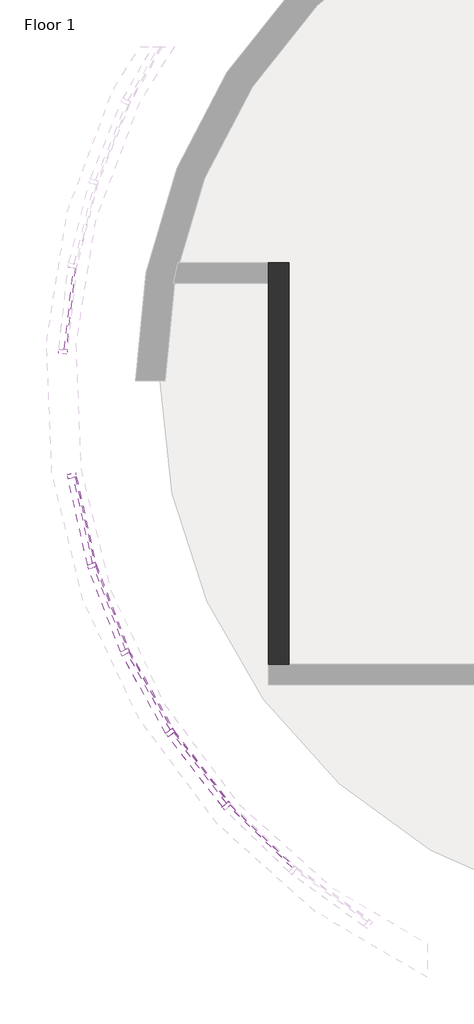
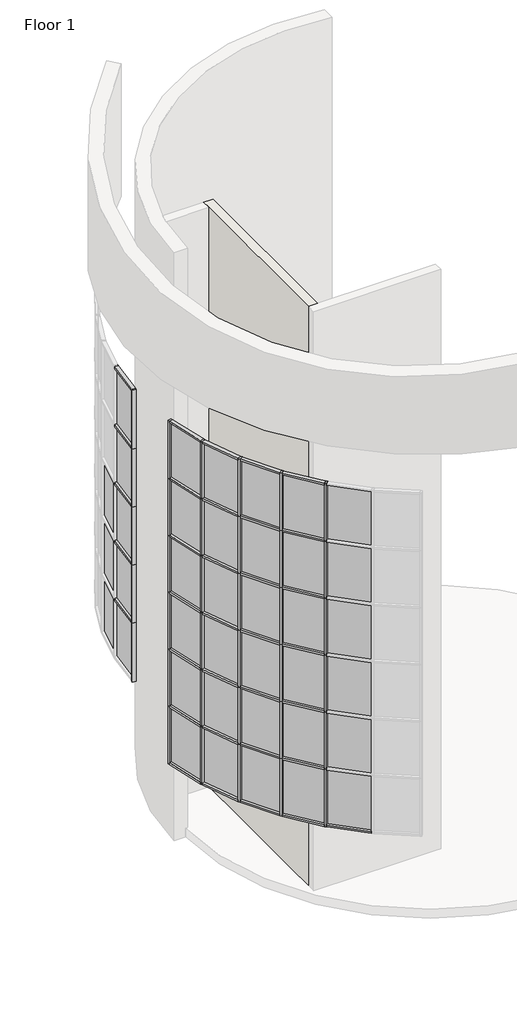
# One storey, part 1 of 11: 69 members, 38 plates, 1 wall.
"""IFC4 building model written with IfcOpenShell, lengths in millimetres."""

from ifc_helpers import new_model, si_unit, origin, place, context, project, spatial, faceted_brep, transform, mapped, element, save
from components import member_2ae322fc, member_21287d99, member_2f5ef470, member_58fb4e6d, member_233ab79f, member_23db0025, member_995572cb, member_0efe1817, member_5e46efc9, member_a397286f, member_60f5540e, member_08becc7e, member_3a2f4316, system_panel_glazed_5cc509e3, system_panel_glazed_c8739ac2, system_panel_glazed_63f175b4, system_panel_glazed_41482947

model = new_model("IFC4")

# Units and contexts
model_context = context("Model", 3, world=origin())
ifc_project = project(units=[si_unit("LENGTHUNIT", "METRE", prefix="MILLI")], contexts=[model_context])

# Site, building, storey
site = spatial("IfcSite", under=ifc_project)
building = spatial("IfcBuilding", under=site)
storey = spatial("IfcBuildingStorey", under=building, Name="Floor 1", Elevation=0.0)

# Members
placement = place(None, origin())
member_shape = member_2ae322fc(model_context)
element("IfcMember", 1, ObjectType="Rectangular Mullion1 : 2.5\" x 5\" rectangular", at=placement, inside=storey, context=model_context, shape_type="MappedRepresentation", body=[
    mapped(member_shape, transform((-3372.5370712, 19812.4001373, 15849.6), x_axis=(0.0, 0.0, 1.0), y_axis=(-0.9938242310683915, 0.11096575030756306, 0.0), z_axis=(-0.11096575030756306, -0.9938242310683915, 0.0))),
])
member_2_shape = member_21287d99(model_context)
element("IfcMember", 2, ObjectType="Rectangular Mullion1 : 2.5\" x 5\" rectangular", at=placement, inside=storey, context=model_context, shape_type="MappedRepresentation", body=[
    mapped(member_2_shape, transform((-3372.5370712, 19812.4001373, 7578.09), x_axis=(0.0, 0.0, 1.0), y_axis=(-0.9938242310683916, 0.11096575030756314, 0.0), z_axis=(-0.11096575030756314, -0.9938242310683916, 0.0))),
])
element("IfcMember", 3, ObjectType="Rectangular Mullion1 : 2.5\" x 5\" rectangular", at=placement, inside=storey, context=model_context, shape_type="MappedRepresentation", body=[
    mapped(member_2_shape, transform((-3372.5370712, 19812.4001373, 9638.03), x_axis=(0.0, 0.0, 1.0), y_axis=(-0.9938242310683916, 0.11096575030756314, 0.0), z_axis=(-0.11096575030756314, -0.9938242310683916, 0.0))),
])
element("IfcMember", 4, ObjectType="Rectangular Mullion1 : 2.5\" x 5\" rectangular", at=placement, inside=storey, context=model_context, shape_type="MappedRepresentation", body=[
    mapped(member_2_shape, transform((-3372.5370712, 19812.4001373, 11697.97), x_axis=(0.0, 0.0, 1.0), y_axis=(-0.9938242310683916, 0.11096575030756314, 0.0), z_axis=(-0.11096575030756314, -0.9938242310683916, 0.0))),
])
element("IfcMember", 5, ObjectType="Rectangular Mullion1 : 2.5\" x 5\" rectangular", at=placement, inside=storey, context=model_context, shape_type="MappedRepresentation", body=[
    mapped(member_2_shape, transform((-3372.5370712, 19812.4001373, 13757.91), x_axis=(0.0, 0.0, 1.0), y_axis=(-0.9938242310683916, 0.11096575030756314, 0.0), z_axis=(-0.11096575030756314, -0.9938242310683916, 0.0))),
])
member_3_shape = member_2f5ef470(model_context)
element("IfcMember", 6, ObjectType="Rectangular Mullion1 : 2.5\" x 5\" rectangular", at=placement, inside=storey, context=model_context, shape_type="MappedRepresentation", body=[
    mapped(member_3_shape, transform((-3234.0499823, 17868.9864839, 3657.6), x_axis=(0.0, 0.0, -1.0), y_axis=(-0.9758306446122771, -0.2185281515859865, 0.0), z_axis=(-0.21852815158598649, 0.975830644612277, 0.0))),
])
member_4_shape = member_58fb4e6d(model_context)
element("IfcMember", 7, ObjectType="Rectangular Mullion1 : 2.5\" x 5\" rectangular", at=placement, inside=storey, context=model_context, shape_type="MappedRepresentation", body=[
    mapped(member_4_shape, transform((-2941.3488489, 16561.9387028, 15849.6), x_axis=(0.0, 0.0, 1.0), y_axis=(-0.9758306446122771, -0.2185281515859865, 0.0), z_axis=(0.21852815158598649, -0.975830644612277, 0.0))),
])
member_5_shape = member_233ab79f(model_context)
element("IfcMember", 8, ObjectType="Rectangular Mullion1 : 2.5\" x 5\" rectangular", at=placement, inside=storey, context=model_context, shape_type="MappedRepresentation", body=[
    mapped(member_5_shape, transform((-2442.4749788, 15251.0699632, 15849.6), x_axis=(0.0, 0.0, 1.0), y_axis=(-0.9334258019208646, -0.3587705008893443, 0.0), z_axis=(0.35877050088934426, -0.9334258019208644, 0.0))),
])
element("IfcMember", 9, ObjectType="Rectangular Mullion1 : 2.5\" x 5\" rectangular", at=placement, inside=storey, context=model_context, shape_type="MappedRepresentation", body=[
    mapped(member_5_shape, transform((-1759.3761459, 14026.0602606, 15849.6), x_axis=(0.0, 0.0, 1.0), y_axis=(-0.8717903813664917, -0.4898790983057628, 0.0), z_axis=(0.48987909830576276, -0.8717903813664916, 0.0))),
])
element("IfcMember", 10, ObjectType="Rectangular Mullion1 : 2.5\" x 5\" rectangular", at=placement, inside=storey, context=model_context, shape_type="MappedRepresentation", body=[
    mapped(member_5_shape, transform((-906.4404132, 12912.6091289, 15849.6), x_axis=(0.0, 0.0, 1.0), y_axis=(-0.7918574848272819, -0.6107059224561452, 0.0), z_axis=(0.6107059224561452, -0.7918574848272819, 0.0))),
])
element("IfcMember", 11, ObjectType="Rectangular Mullion1 : 2.5\" x 5\" rectangular", at=placement, inside=storey, context=model_context, shape_type="MappedRepresentation", body=[
    mapped(member_5_shape, transform((-2923.0196167, 16501.3198106, 3657.6), x_axis=(0.0, 0.0, -1.0), y_axis=(-0.9334258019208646, -0.3587705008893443, 0.0), z_axis=(-0.3587705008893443, 0.9334258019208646, 0.0))),
])
element("IfcMember", 12, ObjectType="Rectangular Mullion1 : 2.5\" x 5\" rectangular", at=placement, inside=storey, context=model_context, shape_type="MappedRepresentation", body=[
    mapped(member_5_shape, transform((-2415.530354, 15193.7543494, 3657.6), x_axis=(0.0, 0.0, -1.0), y_axis=(-0.8717903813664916, -0.4898790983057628, 0.0), z_axis=(-0.4898790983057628, 0.8717903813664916, 0.0))),
])
element("IfcMember", 13, ObjectType="Rectangular Mullion1 : 2.5\" x 5\" rectangular", at=placement, inside=storey, context=model_context, shape_type="MappedRepresentation", body=[
    mapped(member_5_shape, transform((-1724.4325715, 13973.2394409, 3657.6), x_axis=(0.0, 0.0, -1.0), y_axis=(-0.7918574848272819, -0.6107059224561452, 0.0), z_axis=(-0.6107059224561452, 0.7918574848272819, 0.0))),
])
element("IfcMember", 14, ObjectType="Rectangular Mullion1 : 2.5\" x 5\" rectangular", at=placement, inside=storey, context=model_context, shape_type="MappedRepresentation", body=[
    mapped(member_5_shape, transform((-864.2312985, 12865.3917271, 3657.6), x_axis=(0.0, 0.0, -1.0), y_axis=(-0.6953047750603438, -0.7187150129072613, 0.0), z_axis=(-0.7187150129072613, 0.6953047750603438, 0.0))),
])
member_6_shape = member_23db0025(model_context)
element("IfcMember", 15, ObjectType="Rectangular Mullion1 : 2.5\" x 5\" rectangular", at=placement, inside=storey, context=model_context, shape_type="MappedRepresentation", body=[
    mapped(member_6_shape, transform((-2941.3488489, 16561.9387028, 5710.7666667), x_axis=(0.0, 0.0, 1.0), y_axis=(-0.9758306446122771, -0.2185281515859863, 0.0), z_axis=(0.2185281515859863, -0.9758306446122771, 0.0))),
])
member_7_shape = member_995572cb(model_context)
element("IfcMember", 16, ObjectType="Rectangular Mullion1 : 2.5\" x 5\" rectangular", at=placement, inside=storey, context=model_context, shape_type="MappedRepresentation", body=[
    mapped(member_7_shape, transform((-2442.4749788, 15251.0699632, 5710.7666667), x_axis=(0.0, 0.0, 1.0), y_axis=(-0.9334258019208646, -0.3587705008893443, 0.0), z_axis=(0.35877050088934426, -0.9334258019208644, 0.0))),
])
element("IfcMember", 17, ObjectType="Rectangular Mullion1 : 2.5\" x 5\" rectangular", at=placement, inside=storey, context=model_context, shape_type="MappedRepresentation", body=[
    mapped(member_7_shape, transform((-1759.3761459, 14026.0602606, 5710.7666667), x_axis=(0.0, 0.0, 1.0), y_axis=(-0.8717903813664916, -0.4898790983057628, 0.0), z_axis=(0.4898790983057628, -0.8717903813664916, 0.0))),
])
element("IfcMember", 18, ObjectType="Rectangular Mullion1 : 2.5\" x 5\" rectangular", at=placement, inside=storey, context=model_context, shape_type="MappedRepresentation", body=[
    mapped(member_7_shape, transform((-906.4404132, 12912.6091289, 5710.7666667), x_axis=(0.0, 0.0, 1.0), y_axis=(-0.7918574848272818, -0.6107059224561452, 0.0), z_axis=(0.6107059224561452, -0.7918574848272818, 0.0))),
])
element("IfcMember", 19, ObjectType="Rectangular Mullion1 : 2.5\" x 5\" rectangular", at=placement, inside=storey, context=model_context, shape_type="MappedRepresentation", body=[
    mapped(member_6_shape, transform((-2941.3488489, 16561.9387028, 7732.1833333), x_axis=(0.0, 0.0, 1.0), y_axis=(-0.9758306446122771, -0.2185281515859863, 0.0), z_axis=(0.2185281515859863, -0.9758306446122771, 0.0))),
])
element("IfcMember", 20, ObjectType="Rectangular Mullion1 : 2.5\" x 5\" rectangular", at=placement, inside=storey, context=model_context, shape_type="MappedRepresentation", body=[
    mapped(member_6_shape, transform((-2941.3488489, 16561.9387028, 9753.6), x_axis=(0.0, 0.0, 1.0), y_axis=(-0.9758306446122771, -0.2185281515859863, 0.0), z_axis=(0.2185281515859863, -0.9758306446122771, 0.0))),
])
element("IfcMember", 21, ObjectType="Rectangular Mullion1 : 2.5\" x 5\" rectangular", at=placement, inside=storey, context=model_context, shape_type="MappedRepresentation", body=[
    mapped(member_6_shape, transform((-2941.3488489, 16561.9387028, 11775.0166667), x_axis=(0.0, 0.0, 1.0), y_axis=(-0.9758306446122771, -0.2185281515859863, 0.0), z_axis=(0.2185281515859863, -0.9758306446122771, 0.0))),
])
element("IfcMember", 22, ObjectType="Rectangular Mullion1 : 2.5\" x 5\" rectangular", at=placement, inside=storey, context=model_context, shape_type="MappedRepresentation", body=[
    mapped(member_7_shape, transform((-2442.4749788, 15251.0699632, 7732.1833333), x_axis=(0.0, 0.0, 1.0), y_axis=(-0.9334258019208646, -0.3587705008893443, 0.0), z_axis=(0.35877050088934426, -0.9334258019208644, 0.0))),
])
element("IfcMember", 23, ObjectType="Rectangular Mullion1 : 2.5\" x 5\" rectangular", at=placement, inside=storey, context=model_context, shape_type="MappedRepresentation", body=[
    mapped(member_7_shape, transform((-1759.3761459, 14026.0602606, 7732.1833333), x_axis=(0.0, 0.0, 1.0), y_axis=(-0.8717903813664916, -0.489879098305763, 0.0), z_axis=(0.489879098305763, -0.8717903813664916, 0.0))),
])
element("IfcMember", 24, ObjectType="Rectangular Mullion1 : 2.5\" x 5\" rectangular", at=placement, inside=storey, context=model_context, shape_type="MappedRepresentation", body=[
    mapped(member_7_shape, transform((-906.4404132, 12912.6091289, 7732.1833333), x_axis=(0.0, 0.0, 1.0), y_axis=(-0.7918574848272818, -0.6107059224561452, 0.0), z_axis=(0.6107059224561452, -0.7918574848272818, 0.0))),
])
element("IfcMember", 25, ObjectType="Rectangular Mullion1 : 2.5\" x 5\" rectangular", at=placement, inside=storey, context=model_context, shape_type="MappedRepresentation", body=[
    mapped(member_7_shape, transform((-2442.4749788, 15251.0699632, 9753.6), x_axis=(0.0, 0.0, 1.0), y_axis=(-0.9334258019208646, -0.3587705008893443, 0.0), z_axis=(0.35877050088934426, -0.9334258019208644, 0.0))),
])
element("IfcMember", 26, ObjectType="Rectangular Mullion1 : 2.5\" x 5\" rectangular", at=placement, inside=storey, context=model_context, shape_type="MappedRepresentation", body=[
    mapped(member_7_shape, transform((-1759.3761459, 14026.0602606, 9753.6), x_axis=(0.0, 0.0, 1.0), y_axis=(-0.8717903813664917, -0.4898790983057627, 0.0), z_axis=(0.48987909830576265, -0.8717903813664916, 0.0))),
])
element("IfcMember", 27, ObjectType="Rectangular Mullion1 : 2.5\" x 5\" rectangular", at=placement, inside=storey, context=model_context, shape_type="MappedRepresentation", body=[
    mapped(member_7_shape, transform((-906.4404132, 12912.6091289, 9753.6), x_axis=(0.0, 0.0, 1.0), y_axis=(-0.7918574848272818, -0.6107059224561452, 0.0), z_axis=(0.6107059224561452, -0.7918574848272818, 0.0))),
])
element("IfcMember", 28, ObjectType="Rectangular Mullion1 : 2.5\" x 5\" rectangular", at=placement, inside=storey, context=model_context, shape_type="MappedRepresentation", body=[
    mapped(member_7_shape, transform((-2442.4749788, 15251.0699632, 11775.0166667), x_axis=(0.0, 0.0, 1.0), y_axis=(-0.9334258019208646, -0.3587705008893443, 0.0), z_axis=(0.35877050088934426, -0.9334258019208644, 0.0))),
])
element("IfcMember", 29, ObjectType="Rectangular Mullion1 : 2.5\" x 5\" rectangular", at=placement, inside=storey, context=model_context, shape_type="MappedRepresentation", body=[
    mapped(member_7_shape, transform((-1759.3761459, 14026.0602606, 11775.0166667), x_axis=(0.0, 0.0, 1.0), y_axis=(-0.8717903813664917, -0.4898790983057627, 0.0), z_axis=(0.48987909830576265, -0.8717903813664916, 0.0))),
])
element("IfcMember", 30, ObjectType="Rectangular Mullion1 : 2.5\" x 5\" rectangular", at=placement, inside=storey, context=model_context, shape_type="MappedRepresentation", body=[
    mapped(member_7_shape, transform((-906.4404132, 12912.6091289, 11775.0166667), x_axis=(0.0, 0.0, 1.0), y_axis=(-0.7918574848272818, -0.6107059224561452, 0.0), z_axis=(0.6107059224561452, -0.7918574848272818, 0.0))),
])
element("IfcMember", 31, ObjectType="Rectangular Mullion1 : 2.5\" x 5\" rectangular", at=placement, inside=storey, context=model_context, shape_type="MappedRepresentation", body=[
    mapped(member_6_shape, transform((-2941.3488489, 16561.9387028, 13796.4333333), x_axis=(0.0, 0.0, 1.0), y_axis=(-0.9758306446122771, -0.2185281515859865, 0.0), z_axis=(0.21852815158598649, -0.975830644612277, 0.0))),
])
element("IfcMember", 32, ObjectType="Rectangular Mullion1 : 2.5\" x 5\" rectangular", at=placement, inside=storey, context=model_context, shape_type="MappedRepresentation", body=[
    mapped(member_7_shape, transform((-2442.4749788, 15251.0699632, 13796.4333333), x_axis=(0.0, 0.0, 1.0), y_axis=(-0.9334258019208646, -0.3587705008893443, 0.0), z_axis=(0.35877050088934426, -0.9334258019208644, 0.0))),
])
element("IfcMember", 33, ObjectType="Rectangular Mullion1 : 2.5\" x 5\" rectangular", at=placement, inside=storey, context=model_context, shape_type="MappedRepresentation", body=[
    mapped(member_7_shape, transform((-1759.3761459, 14026.0602606, 13796.4333333), x_axis=(0.0, 0.0, 1.0), y_axis=(-0.8717903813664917, -0.4898790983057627, 0.0), z_axis=(0.48987909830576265, -0.8717903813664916, 0.0))),
])
element("IfcMember", 34, ObjectType="Rectangular Mullion1 : 2.5\" x 5\" rectangular", at=placement, inside=storey, context=model_context, shape_type="MappedRepresentation", body=[
    mapped(member_7_shape, transform((-906.4404132, 12912.6091289, 13796.4333333), x_axis=(0.0, 0.0, 1.0), y_axis=(-0.7918574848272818, -0.6107059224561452, 0.0), z_axis=(0.6107059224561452, -0.7918574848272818, 0.0))),
])
member_8_shape = member_0efe1817(model_context)
element("IfcMember", 35, ObjectType="Rectangular Mullion1 : 2.5\" x 5\" rectangular", at=placement, inside=storey, context=model_context, shape_type="MappedRepresentation", body=[
    mapped(member_8_shape, transform((-2934.4105801, 16530.9560798, 3657.6), x_axis=(0.2902135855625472, -0.9569618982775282, 0.0), y_axis=(-0.9569618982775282, -0.2902135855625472, 0.0), z_axis=(0.0, 0.0, -1.0))),
])
element("IfcMember", 36, ObjectType="Rectangular Mullion1 : 2.5\" x 5\" rectangular", at=placement, inside=storey, context=model_context, shape_type="MappedRepresentation", body=[
    mapped(member_8_shape, transform((-2431.0840154, 15221.433694, 3657.6), x_axis=(0.42544243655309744, -0.9049854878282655, 0.0), y_axis=(-0.9049854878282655, -0.42544243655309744, 0.0), z_axis=(0.0, 0.0, -1.0))),
])
element("IfcMember", 37, ObjectType="Rectangular Mullion1 : 2.5\" x 5\" rectangular", at=placement, inside=storey, context=model_context, shape_type="MappedRepresentation", body=[
    mapped(member_8_shape, transform((-1743.8224845, 13998.380916, 3657.6), x_axis=(0.5517419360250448, -0.8340148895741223, 0.0), y_axis=(-0.8340148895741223, -0.5517419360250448, 0.0), z_axis=(0.0, 0.0, -1.0))),
])
element("IfcMember", 38, ObjectType="Rectangular Mullion1 : 2.5\" x 5\" rectangular", at=placement, inside=storey, context=model_context, shape_type="MappedRepresentation", body=[
    mapped(member_8_shape, transform((-887.0505002, 12887.4676537, 3657.6), x_axis=(0.6664612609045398, -0.7455396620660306, 0.0), y_axis=(-0.7455396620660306, -0.6664612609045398, 0.0), z_axis=(0.0, 0.0, -1.0))),
])
member_9_shape = member_5e46efc9(model_context)
element("IfcMember", 39, ObjectType="Rectangular Mullion1 : 2.5\" x 5\" rectangular", at=placement, inside=storey, context=model_context, shape_type="MappedRepresentation", body=[
    mapped(member_9_shape, transform((-2934.4105801, 16530.9560798, 5710.7666667), x_axis=(0.2902135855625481, -0.9569618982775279, 0.0), y_axis=(-0.9569618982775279, -0.2902135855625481, 0.0), z_axis=(0.0, 0.0, -1.0))),
])
element("IfcMember", 40, ObjectType="Rectangular Mullion1 : 2.5\" x 5\" rectangular", at=placement, inside=storey, context=model_context, shape_type="MappedRepresentation", body=[
    mapped(member_9_shape, transform((-2431.0840154, 15221.433694, 5710.7666667), x_axis=(0.4254424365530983, -0.9049854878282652, 0.0), y_axis=(-0.9049854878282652, -0.4254424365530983, 0.0), z_axis=(0.0, 0.0, -1.0))),
])
element("IfcMember", 41, ObjectType="Rectangular Mullion1 : 2.5\" x 5\" rectangular", at=placement, inside=storey, context=model_context, shape_type="MappedRepresentation", body=[
    mapped(member_9_shape, transform((-1743.8224845, 13998.380916, 5710.7666667), x_axis=(0.5517419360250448, -0.8340148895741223, 0.0), y_axis=(-0.8340148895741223, -0.5517419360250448, 0.0), z_axis=(0.0, 0.0, -1.0))),
])
element("IfcMember", 42, ObjectType="Rectangular Mullion1 : 2.5\" x 5\" rectangular", at=placement, inside=storey, context=model_context, shape_type="MappedRepresentation", body=[
    mapped(member_9_shape, transform((-887.0505002, 12887.4676537, 5710.7666667), x_axis=(0.6664612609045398, -0.7455396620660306, 0.0), y_axis=(-0.7455396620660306, -0.6664612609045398, 0.0), z_axis=(0.0, 0.0, -1.0))),
])
element("IfcMember", 43, ObjectType="Rectangular Mullion1 : 2.5\" x 5\" rectangular", at=placement, inside=storey, context=model_context, shape_type="MappedRepresentation", body=[
    mapped(member_9_shape, transform((-2934.4105801, 16530.9560798, 7732.1833333), x_axis=(0.2902135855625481, -0.9569618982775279, 0.0), y_axis=(-0.9569618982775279, -0.2902135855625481, 0.0), z_axis=(0.0, 0.0, -1.0))),
])
element("IfcMember", 44, ObjectType="Rectangular Mullion1 : 2.5\" x 5\" rectangular", at=placement, inside=storey, context=model_context, shape_type="MappedRepresentation", body=[
    mapped(member_9_shape, transform((-2431.0840154, 15221.433694, 7732.1833333), x_axis=(0.4254424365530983, -0.9049854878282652, 0.0), y_axis=(-0.9049854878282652, -0.4254424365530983, 0.0), z_axis=(0.0, 0.0, -1.0))),
])
element("IfcMember", 45, ObjectType="Rectangular Mullion1 : 2.5\" x 5\" rectangular", at=placement, inside=storey, context=model_context, shape_type="MappedRepresentation", body=[
    mapped(member_9_shape, transform((-1743.8224845, 13998.380916, 7732.1833333), x_axis=(0.5517419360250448, -0.8340148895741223, 0.0), y_axis=(-0.8340148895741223, -0.5517419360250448, 0.0), z_axis=(0.0, 0.0, -1.0))),
])
element("IfcMember", 46, ObjectType="Rectangular Mullion1 : 2.5\" x 5\" rectangular", at=placement, inside=storey, context=model_context, shape_type="MappedRepresentation", body=[
    mapped(member_9_shape, transform((-887.0505002, 12887.4676537, 7732.1833333), x_axis=(0.6664612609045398, -0.7455396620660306, 0.0), y_axis=(-0.7455396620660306, -0.6664612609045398, 0.0), z_axis=(0.0, 0.0, -1.0))),
])
element("IfcMember", 47, ObjectType="Rectangular Mullion1 : 2.5\" x 5\" rectangular", at=placement, inside=storey, context=model_context, shape_type="MappedRepresentation", body=[
    mapped(member_9_shape, transform((-2934.4105801, 16530.9560798, 9753.6), x_axis=(0.2902135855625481, -0.9569618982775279, 0.0), y_axis=(-0.9569618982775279, -0.2902135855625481, 0.0), z_axis=(0.0, 0.0, -1.0))),
])
element("IfcMember", 48, ObjectType="Rectangular Mullion1 : 2.5\" x 5\" rectangular", at=placement, inside=storey, context=model_context, shape_type="MappedRepresentation", body=[
    mapped(member_9_shape, transform((-2431.0840154, 15221.433694, 9753.6), x_axis=(0.4254424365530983, -0.9049854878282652, 0.0), y_axis=(-0.9049854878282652, -0.4254424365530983, 0.0), z_axis=(0.0, 0.0, -1.0))),
])
element("IfcMember", 49, ObjectType="Rectangular Mullion1 : 2.5\" x 5\" rectangular", at=placement, inside=storey, context=model_context, shape_type="MappedRepresentation", body=[
    mapped(member_9_shape, transform((-1743.8224845, 13998.380916, 9753.6), x_axis=(0.5517419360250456, -0.8340148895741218, 0.0), y_axis=(-0.8340148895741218, -0.5517419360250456, 0.0), z_axis=(0.0, 0.0, -1.0))),
])
element("IfcMember", 50, ObjectType="Rectangular Mullion1 : 2.5\" x 5\" rectangular", at=placement, inside=storey, context=model_context, shape_type="MappedRepresentation", body=[
    mapped(member_9_shape, transform((-887.0505002, 12887.4676537, 9753.6), x_axis=(0.6664612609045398, -0.7455396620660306, 0.0), y_axis=(-0.7455396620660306, -0.6664612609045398, 0.0), z_axis=(0.0, 0.0, -1.0))),
])
element("IfcMember", 51, ObjectType="Rectangular Mullion1 : 2.5\" x 5\" rectangular", at=placement, inside=storey, context=model_context, shape_type="MappedRepresentation", body=[
    mapped(member_9_shape, transform((-2934.4105801, 16530.9560798, 11775.0166667), x_axis=(0.2902135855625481, -0.9569618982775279, 0.0), y_axis=(-0.9569618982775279, -0.2902135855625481, 0.0), z_axis=(0.0, 0.0, -1.0))),
])
element("IfcMember", 52, ObjectType="Rectangular Mullion1 : 2.5\" x 5\" rectangular", at=placement, inside=storey, context=model_context, shape_type="MappedRepresentation", body=[
    mapped(member_9_shape, transform((-2431.0840154, 15221.433694, 11775.0166667), x_axis=(0.4254424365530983, -0.9049854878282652, 0.0), y_axis=(-0.9049854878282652, -0.4254424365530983, 0.0), z_axis=(0.0, 0.0, -1.0))),
])
element("IfcMember", 53, ObjectType="Rectangular Mullion1 : 2.5\" x 5\" rectangular", at=placement, inside=storey, context=model_context, shape_type="MappedRepresentation", body=[
    mapped(member_9_shape, transform((-1743.8224845, 13998.380916, 11775.0166667), x_axis=(0.5517419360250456, -0.8340148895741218, 0.0), y_axis=(-0.8340148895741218, -0.5517419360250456, 0.0), z_axis=(0.0, 0.0, -1.0))),
])
element("IfcMember", 54, ObjectType="Rectangular Mullion1 : 2.5\" x 5\" rectangular", at=placement, inside=storey, context=model_context, shape_type="MappedRepresentation", body=[
    mapped(member_9_shape, transform((-887.0505002, 12887.4676537, 11775.0166667), x_axis=(0.6664612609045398, -0.7455396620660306, 0.0), y_axis=(-0.7455396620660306, -0.6664612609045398, 0.0), z_axis=(0.0, 0.0, -1.0))),
])
element("IfcMember", 55, ObjectType="Rectangular Mullion1 : 2.5\" x 5\" rectangular", at=placement, inside=storey, context=model_context, shape_type="MappedRepresentation", body=[
    mapped(member_8_shape, transform((-2934.4105801, 16530.9560798, 13796.4333333), x_axis=(0.2902135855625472, -0.9569618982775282, 0.0), y_axis=(-0.9569618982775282, -0.2902135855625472, 0.0), z_axis=(0.0, 0.0, -1.0))),
])
element("IfcMember", 56, ObjectType="Rectangular Mullion1 : 2.5\" x 5\" rectangular", at=placement, inside=storey, context=model_context, shape_type="MappedRepresentation", body=[
    mapped(member_8_shape, transform((-2431.0840154, 15221.433694, 13796.4333333), x_axis=(0.4254424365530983, -0.9049854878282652, 0.0), y_axis=(-0.9049854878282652, -0.4254424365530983, 0.0), z_axis=(0.0, 0.0, -1.0))),
])
element("IfcMember", 57, ObjectType="Rectangular Mullion1 : 2.5\" x 5\" rectangular", at=placement, inside=storey, context=model_context, shape_type="MappedRepresentation", body=[
    mapped(member_8_shape, transform((-1743.8224845, 13998.380916, 13796.4333333), x_axis=(0.5517419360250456, -0.8340148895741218, 0.0), y_axis=(-0.8340148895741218, -0.5517419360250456, 0.0), z_axis=(0.0, 0.0, -1.0))),
])
element("IfcMember", 58, ObjectType="Rectangular Mullion1 : 2.5\" x 5\" rectangular", at=placement, inside=storey, context=model_context, shape_type="MappedRepresentation", body=[
    mapped(member_8_shape, transform((-887.0505002, 12887.4676537, 13796.4333333), x_axis=(0.6664612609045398, -0.7455396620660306, 0.0), y_axis=(-0.7455396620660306, -0.6664612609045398, 0.0), z_axis=(0.0, 0.0, -1.0))),
])
member_10_shape = member_a397286f(model_context)
element("IfcMember", 59, ObjectType="Rectangular Mullion1 : 2.5\" x 5\" rectangular", at=placement, inside=storey, context=model_context, shape_type="MappedRepresentation", body=[
    mapped(member_10_shape, transform((-3379.5833964, 19749.2922986, 5486.4), x_axis=(-0.11096575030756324, -0.9938242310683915, 0.0), y_axis=(-0.9938242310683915, 0.11096575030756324, 0.0), z_axis=(0.0, 0.0, -1.0))),
])
member_11_shape = member_60f5540e(model_context)
element("IfcMember", 60, ObjectType="Rectangular Mullion1 : 2.5\" x 5\" rectangular", at=placement, inside=storey, context=model_context, shape_type="MappedRepresentation", body=[
    mapped(member_11_shape, transform((-3247.9265199, 17930.9517299, 15849.6), x_axis=(-0.21852815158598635, 0.9758306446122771, 0.0), y_axis=(-0.9758306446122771, -0.21852815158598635, 0.0), z_axis=(0.0, 0.0, 1.0))),
])
member_12_shape = member_08becc7e(model_context)
element("IfcMember", 61, ObjectType="Rectangular Mullion1 : 2.5\" x 5\" rectangular", at=placement, inside=storey, context=model_context, shape_type="MappedRepresentation", body=[
    mapped(member_12_shape, transform((-3379.5833964, 19749.2922986, 7578.09), x_axis=(-0.11096575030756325, -0.9938242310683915, 0.0), y_axis=(-0.9938242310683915, 0.11096575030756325, 0.0), z_axis=(0.0, 0.0, -1.0))),
])
element("IfcMember", 62, ObjectType="Rectangular Mullion1 : 2.5\" x 5\" rectangular", at=placement, inside=storey, context=model_context, shape_type="MappedRepresentation", body=[
    mapped(member_12_shape, transform((-3379.5833964, 19749.2922986, 9638.03), x_axis=(-0.11096575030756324, -0.9938242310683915, 0.0), y_axis=(-0.9938242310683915, 0.11096575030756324, 0.0), z_axis=(0.0, 0.0, -1.0))),
])
element("IfcMember", 63, ObjectType="Rectangular Mullion1 : 2.5\" x 5\" rectangular", at=placement, inside=storey, context=model_context, shape_type="MappedRepresentation", body=[
    mapped(member_12_shape, transform((-3379.5833964, 19749.2922986, 11697.97), x_axis=(-0.11096575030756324, -0.9938242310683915, 0.0), y_axis=(-0.9938242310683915, 0.11096575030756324, 0.0), z_axis=(0.0, 0.0, -1.0))),
])
element("IfcMember", 64, ObjectType="Rectangular Mullion1 : 2.5\" x 5\" rectangular", at=placement, inside=storey, context=model_context, shape_type="MappedRepresentation", body=[
    mapped(member_10_shape, transform((-3379.5833964, 19749.2922986, 13757.91), x_axis=(-0.11096575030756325, -0.9938242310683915, 0.0), y_axis=(-0.9938242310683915, 0.11096575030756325, 0.0), z_axis=(0.0, 0.0, -1.0))),
])
element("IfcMember", 65, ObjectType="Rectangular Mullion1 : 2.5\" x 5\" rectangular", at=placement, inside=storey, context=model_context, shape_type="MappedRepresentation", body=[
    mapped(member_11_shape, transform((-3247.9265199, 17930.9517299, 5710.7666667), x_axis=(-0.21852815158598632, 0.9758306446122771, 0.0), y_axis=(-0.9758306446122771, -0.21852815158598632, 0.0), z_axis=(0.0, 0.0, 1.0))),
])
member_13_shape = member_3a2f4316(model_context)
element("IfcMember", 66, ObjectType="Rectangular Mullion1 : 2.5\" x 5\" rectangular", at=placement, inside=storey, context=model_context, shape_type="MappedRepresentation", body=[
    mapped(member_13_shape, transform((-3247.9265199, 17930.9517299, 7732.1833333), x_axis=(-0.21852815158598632, 0.9758306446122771, 0.0), y_axis=(-0.9758306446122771, -0.21852815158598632, 0.0), z_axis=(0.0, 0.0, 1.0))),
])
element("IfcMember", 67, ObjectType="Rectangular Mullion1 : 2.5\" x 5\" rectangular", at=placement, inside=storey, context=model_context, shape_type="MappedRepresentation", body=[
    mapped(member_13_shape, transform((-3247.9265199, 17930.9517299, 9753.6), x_axis=(-0.21852815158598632, 0.9758306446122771, 0.0), y_axis=(-0.9758306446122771, -0.21852815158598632, 0.0), z_axis=(0.0, 0.0, 1.0))),
])
element("IfcMember", 68, ObjectType="Rectangular Mullion1 : 2.5\" x 5\" rectangular", at=placement, inside=storey, context=model_context, shape_type="MappedRepresentation", body=[
    mapped(member_13_shape, transform((-3247.9265199, 17930.9517299, 11775.0166667), x_axis=(-0.21852815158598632, 0.9758306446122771, 0.0), y_axis=(-0.9758306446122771, -0.21852815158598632, 0.0), z_axis=(0.0, 0.0, 1.0))),
])
element("IfcMember", 69, ObjectType="Rectangular Mullion1 : 2.5\" x 5\" rectangular", at=placement, inside=storey, context=model_context, shape_type="MappedRepresentation", body=[
    mapped(member_13_shape, transform((-3247.9265199, 17930.9517299, 13796.4333333), x_axis=(-0.21852815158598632, 0.9758306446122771, 0.0), y_axis=(-0.9758306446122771, -0.21852815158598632, 0.0), z_axis=(0.0, 0.0, 1.0))),
])

# Plates
system_panel_glazed_shape = system_panel_glazed_5cc509e3(model_context)
element("IfcPlate", 70, ObjectType="System Panel : Glazed", at=placement, inside=storey, context=model_context, shape_type="MappedRepresentation", body=[
    mapped(system_panel_glazed_shape, transform((-3303.224481, 20433.1730471, 5549.9), x_axis=(-0.11096575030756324, -0.9938242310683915, 0.0), y_axis=(0.9938242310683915, -0.11096575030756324, 0.0), z_axis=(0.0, 0.0, 1.0))),
])
element("IfcPlate", 71, ObjectType="System Panel : Glazed", at=placement, inside=storey, context=model_context, shape_type="MappedRepresentation", body=[
    mapped(system_panel_glazed_shape, transform((-3303.224481, 20433.1730471, 7609.84), x_axis=(-0.11096575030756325, -0.9938242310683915, 0.0), y_axis=(0.9938242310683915, -0.11096575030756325, 0.0), z_axis=(0.0, 0.0, 1.0))),
])
element("IfcPlate", 72, ObjectType="System Panel : Glazed", at=placement, inside=storey, context=model_context, shape_type="MappedRepresentation", body=[
    mapped(system_panel_glazed_shape, transform((-3303.224481, 20433.1730471, 9669.78), x_axis=(-0.11096575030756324, -0.9938242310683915, 0.0), y_axis=(0.9938242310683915, -0.11096575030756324, 0.0), z_axis=(0.0, 0.0, 1.0))),
])
element("IfcPlate", 73, ObjectType="System Panel : Glazed", at=placement, inside=storey, context=model_context, shape_type="MappedRepresentation", body=[
    mapped(system_panel_glazed_shape, transform((-3303.224481, 20433.1730471, 11729.72), x_axis=(-0.11096575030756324, -0.9938242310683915, 0.0), y_axis=(0.9938242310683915, -0.11096575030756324, 0.0), z_axis=(0.0, 0.0, 1.0))),
])
element("IfcPlate", 74, ObjectType="System Panel : Glazed", at=placement, inside=storey, context=model_context, shape_type="MappedRepresentation", body=[
    mapped(system_panel_glazed_shape, transform((-3303.224481, 20433.1730471, 13789.66), x_axis=(-0.11096575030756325, -0.9938242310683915, 0.0), y_axis=(0.9938242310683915, -0.11096575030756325, 0.0), z_axis=(0.0, 0.0, 1.0))),
])
system_panel_glazed_2_shape = system_panel_glazed_c8739ac2(model_context)
element("IfcPlate", 75, ObjectType="System Panel : Glazed", at=placement, inside=storey, context=model_context, shape_type="MappedRepresentation", body=[
    mapped(system_panel_glazed_2_shape, transform((-3087.6994156, 17215.4625934, 3721.1), x_axis=(0.21852815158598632, -0.9758306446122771, 0.0), y_axis=(0.9758306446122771, 0.21852815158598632, 0.0), z_axis=(0.0, 0.0, 1.0))),
])
element("IfcPlate", 76, ObjectType="System Panel : Glazed", at=placement, inside=storey, context=model_context, shape_type="MappedRepresentation", body=[
    mapped(system_panel_glazed_2_shape, transform((-3087.6994156, 17215.4625934, 5742.5166667), x_axis=(0.21852815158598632, -0.9758306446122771, 0.0), y_axis=(0.9758306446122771, 0.21852815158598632, 0.0), z_axis=(0.0, 0.0, 1.0))),
])
element("IfcPlate", 77, ObjectType="System Panel : Glazed", at=placement, inside=storey, context=model_context, shape_type="MappedRepresentation", body=[
    mapped(system_panel_glazed_2_shape, transform((-3087.6994156, 17215.4625934, 7763.9333333), x_axis=(0.21852815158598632, -0.9758306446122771, 0.0), y_axis=(0.9758306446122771, 0.21852815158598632, 0.0), z_axis=(0.0, 0.0, 1.0))),
])
element("IfcPlate", 78, ObjectType="System Panel : Glazed", at=placement, inside=storey, context=model_context, shape_type="MappedRepresentation", body=[
    mapped(system_panel_glazed_2_shape, transform((-3087.6994156, 17215.4625934, 9785.35), x_axis=(0.21852815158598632, -0.9758306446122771, 0.0), y_axis=(0.9758306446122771, 0.21852815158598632, 0.0), z_axis=(0.0, 0.0, 1.0))),
])
element("IfcPlate", 79, ObjectType="System Panel : Glazed", at=placement, inside=storey, context=model_context, shape_type="MappedRepresentation", body=[
    mapped(system_panel_glazed_2_shape, transform((-3087.6994156, 17215.4625934, 11806.7666667), x_axis=(0.21852815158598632, -0.9758306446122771, 0.0), y_axis=(0.9758306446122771, 0.21852815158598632, 0.0), z_axis=(0.0, 0.0, 1.0))),
])
element("IfcPlate", 80, ObjectType="System Panel : Glazed", at=placement, inside=storey, context=model_context, shape_type="MappedRepresentation", body=[
    mapped(system_panel_glazed_2_shape, transform((-3087.6994156, 17215.4625934, 13828.1833333), x_axis=(0.21852815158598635, -0.9758306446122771, 0.0), y_axis=(0.9758306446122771, 0.21852815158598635, 0.0), z_axis=(0.0, 0.0, 1.0))),
])
system_panel_glazed_3_shape = system_panel_glazed_63f175b4(model_context)
element("IfcPlate", 81, ObjectType="System Panel : Glazed", at=placement, inside=storey, context=model_context, shape_type="MappedRepresentation", body=[
    mapped(system_panel_glazed_3_shape, transform((-3069.2811615, 21721.8014435, 5549.9), x_axis=(-0.24544844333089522, -0.9694096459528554, 0.0), y_axis=(0.9694096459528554, -0.24544844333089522, 0.0), z_axis=(0.0, 0.0, 1.0))),
])
element("IfcPlate", 82, ObjectType="System Panel : Glazed", at=placement, inside=storey, context=model_context, shape_type="MappedRepresentation", body=[
    mapped(system_panel_glazed_3_shape, transform((-3069.2811615, 21721.8014435, 7609.84), x_axis=(-0.2454484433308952, -0.9694096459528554, 0.0), y_axis=(0.9694096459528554, -0.2454484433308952, 0.0), z_axis=(0.0, 0.0, 1.0))),
])
element("IfcPlate", 83, ObjectType="System Panel : Glazed", at=placement, inside=storey, context=model_context, shape_type="MappedRepresentation", body=[
    mapped(system_panel_glazed_3_shape, transform((-3069.2811615, 21721.8014435, 9669.78), x_axis=(-0.2454484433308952, -0.9694096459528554, 0.0), y_axis=(0.9694096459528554, -0.2454484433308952, 0.0), z_axis=(0.0, 0.0, 1.0))),
])
system_panel_glazed_4_shape = system_panel_glazed_41482947(model_context)
element("IfcPlate", 84, ObjectType="System Panel : Glazed", at=placement, inside=storey, context=model_context, shape_type="MappedRepresentation", body=[
    mapped(system_panel_glazed_4_shape, transform((-2682.7472977, 15876.1948869, 3721.1), x_axis=(0.35877050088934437, -0.9334258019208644, 0.0), y_axis=(0.9334258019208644, 0.35877050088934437, 0.0), z_axis=(0.0, 0.0, 1.0))),
])
element("IfcPlate", 85, ObjectType="System Panel : Glazed", at=placement, inside=storey, context=model_context, shape_type="MappedRepresentation", body=[
    mapped(system_panel_glazed_4_shape, transform((-2087.45325, 14609.907305, 3721.1), x_axis=(0.4898790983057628, -0.8717903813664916, 0.0), y_axis=(0.8717903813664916, 0.4898790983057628, 0.0), z_axis=(0.0, 0.0, 1.0))),
])
element("IfcPlate", 86, ObjectType="System Panel : Glazed", at=placement, inside=storey, context=model_context, shape_type="MappedRepresentation", body=[
    mapped(system_panel_glazed_4_shape, transform((-1315.4364924, 13442.9242849, 3721.1), x_axis=(0.6107059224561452, -0.7918574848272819, 0.0), y_axis=(0.7918574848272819, 0.6107059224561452, 0.0), z_axis=(0.0, 0.0, 1.0))),
])
element("IfcPlate", 87, ObjectType="System Panel : Glazed", at=placement, inside=storey, context=model_context, shape_type="MappedRepresentation", body=[
    mapped(system_panel_glazed_4_shape, transform((-382.9004132, 12399.7389205, 3721.1), x_axis=(0.7187150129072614, -0.6953047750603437, 0.0), y_axis=(0.6953047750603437, 0.7187150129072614, 0.0), z_axis=(0.0, 0.0, 1.0))),
])
element("IfcPlate", 88, ObjectType="System Panel : Glazed", at=placement, inside=storey, context=model_context, shape_type="MappedRepresentation", body=[
    mapped(system_panel_glazed_4_shape, transform((-2682.7472977, 15876.1948869, 5742.5166667), x_axis=(0.3587705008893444, -0.9334258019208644, 0.0), y_axis=(0.9334258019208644, 0.3587705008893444, 0.0), z_axis=(0.0, 0.0, 1.0))),
])
element("IfcPlate", 89, ObjectType="System Panel : Glazed", at=placement, inside=storey, context=model_context, shape_type="MappedRepresentation", body=[
    mapped(system_panel_glazed_4_shape, transform((-2087.45325, 14609.907305, 5742.5166667), x_axis=(0.4898790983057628, -0.8717903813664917, 0.0), y_axis=(0.8717903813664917, 0.4898790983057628, 0.0), z_axis=(0.0, 0.0, 1.0))),
])
element("IfcPlate", 90, ObjectType="System Panel : Glazed", at=placement, inside=storey, context=model_context, shape_type="MappedRepresentation", body=[
    mapped(system_panel_glazed_4_shape, transform((-1315.4364924, 13442.9242849, 5742.5166667), x_axis=(0.6107059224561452, -0.7918574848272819, 0.0), y_axis=(0.7918574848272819, 0.6107059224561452, 0.0), z_axis=(0.0, 0.0, 1.0))),
])
element("IfcPlate", 91, ObjectType="System Panel : Glazed", at=placement, inside=storey, context=model_context, shape_type="MappedRepresentation", body=[
    mapped(system_panel_glazed_4_shape, transform((-382.9004132, 12399.7389205, 5742.5166667), x_axis=(0.7187150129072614, -0.6953047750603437, 0.0), y_axis=(0.6953047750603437, 0.7187150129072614, 0.0), z_axis=(0.0, 0.0, 1.0))),
])
element("IfcPlate", 92, ObjectType="System Panel : Glazed", at=placement, inside=storey, context=model_context, shape_type="MappedRepresentation", body=[
    mapped(system_panel_glazed_4_shape, transform((-2682.7472977, 15876.1948869, 7763.9333333), x_axis=(0.3587705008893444, -0.9334258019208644, 0.0), y_axis=(0.9334258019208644, 0.3587705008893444, 0.0), z_axis=(0.0, 0.0, 1.0))),
])
element("IfcPlate", 93, ObjectType="System Panel : Glazed", at=placement, inside=storey, context=model_context, shape_type="MappedRepresentation", body=[
    mapped(system_panel_glazed_4_shape, transform((-2087.45325, 14609.907305, 7763.9333333), x_axis=(0.4898790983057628, -0.8717903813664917, 0.0), y_axis=(0.8717903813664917, 0.4898790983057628, 0.0), z_axis=(0.0, 0.0, 1.0))),
])
element("IfcPlate", 94, ObjectType="System Panel : Glazed", at=placement, inside=storey, context=model_context, shape_type="MappedRepresentation", body=[
    mapped(system_panel_glazed_4_shape, transform((-1315.4364924, 13442.9242849, 7763.9333333), x_axis=(0.6107059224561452, -0.7918574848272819, 0.0), y_axis=(0.7918574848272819, 0.6107059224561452, 0.0), z_axis=(0.0, 0.0, 1.0))),
])
element("IfcPlate", 95, ObjectType="System Panel : Glazed", at=placement, inside=storey, context=model_context, shape_type="MappedRepresentation", body=[
    mapped(system_panel_glazed_4_shape, transform((-382.9004132, 12399.7389205, 7763.9333333), x_axis=(0.7187150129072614, -0.6953047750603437, 0.0), y_axis=(0.6953047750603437, 0.7187150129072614, 0.0), z_axis=(0.0, 0.0, 1.0))),
])
element("IfcPlate", 96, ObjectType="System Panel : Glazed", at=placement, inside=storey, context=model_context, shape_type="MappedRepresentation", body=[
    mapped(system_panel_glazed_4_shape, transform((-2682.7472977, 15876.1948869, 9785.35), x_axis=(0.35877050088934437, -0.9334258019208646, 0.0), y_axis=(0.9334258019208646, 0.35877050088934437, 0.0), z_axis=(0.0, 0.0, 1.0))),
])
element("IfcPlate", 97, ObjectType="System Panel : Glazed", at=placement, inside=storey, context=model_context, shape_type="MappedRepresentation", body=[
    mapped(system_panel_glazed_4_shape, transform((-2087.45325, 14609.907305, 9785.35), x_axis=(0.4898790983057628, -0.8717903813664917, 0.0), y_axis=(0.8717903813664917, 0.4898790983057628, 0.0), z_axis=(0.0, 0.0, 1.0))),
])
element("IfcPlate", 98, ObjectType="System Panel : Glazed", at=placement, inside=storey, context=model_context, shape_type="MappedRepresentation", body=[
    mapped(system_panel_glazed_4_shape, transform((-1315.4364924, 13442.9242849, 9785.35), x_axis=(0.6107059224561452, -0.7918574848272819, 0.0), y_axis=(0.7918574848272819, 0.6107059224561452, 0.0), z_axis=(0.0, 0.0, 1.0))),
])
element("IfcPlate", 99, ObjectType="System Panel : Glazed", at=placement, inside=storey, context=model_context, shape_type="MappedRepresentation", body=[
    mapped(system_panel_glazed_4_shape, transform((-382.9004132, 12399.7389205, 9785.35), x_axis=(0.7187150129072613, -0.6953047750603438, 0.0), y_axis=(0.6953047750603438, 0.7187150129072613, 0.0), z_axis=(0.0, 0.0, 1.0))),
])
element("IfcPlate", 100, ObjectType="System Panel : Glazed", at=placement, inside=storey, context=model_context, shape_type="MappedRepresentation", body=[
    mapped(system_panel_glazed_4_shape, transform((-2682.7472977, 15876.1948869, 11806.7666667), x_axis=(0.3587705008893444, -0.9334258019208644, 0.0), y_axis=(0.9334258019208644, 0.3587705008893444, 0.0), z_axis=(0.0, 0.0, 1.0))),
])
element("IfcPlate", 101, ObjectType="System Panel : Glazed", at=placement, inside=storey, context=model_context, shape_type="MappedRepresentation", body=[
    mapped(system_panel_glazed_4_shape, transform((-2087.45325, 14609.907305, 11806.7666667), x_axis=(0.4898790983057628, -0.8717903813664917, 0.0), y_axis=(0.8717903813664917, 0.4898790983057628, 0.0), z_axis=(0.0, 0.0, 1.0))),
])
element("IfcPlate", 102, ObjectType="System Panel : Glazed", at=placement, inside=storey, context=model_context, shape_type="MappedRepresentation", body=[
    mapped(system_panel_glazed_4_shape, transform((-1315.4364924, 13442.9242849, 11806.7666667), x_axis=(0.6107059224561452, -0.7918574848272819, 0.0), y_axis=(0.7918574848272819, 0.6107059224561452, 0.0), z_axis=(0.0, 0.0, 1.0))),
])
element("IfcPlate", 103, ObjectType="System Panel : Glazed", at=placement, inside=storey, context=model_context, shape_type="MappedRepresentation", body=[
    mapped(system_panel_glazed_4_shape, transform((-382.9004132, 12399.7389205, 11806.7666667), x_axis=(0.7187150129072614, -0.6953047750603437, 0.0), y_axis=(0.6953047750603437, 0.7187150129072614, 0.0), z_axis=(0.0, 0.0, 1.0))),
])
element("IfcPlate", 104, ObjectType="System Panel : Glazed", at=placement, inside=storey, context=model_context, shape_type="MappedRepresentation", body=[
    mapped(system_panel_glazed_4_shape, transform((-2682.7472977, 15876.1948869, 13828.1833333), x_axis=(0.35877050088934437, -0.9334258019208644, 0.0), y_axis=(0.9334258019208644, 0.35877050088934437, 0.0), z_axis=(0.0, 0.0, 1.0))),
])
element("IfcPlate", 105, ObjectType="System Panel : Glazed", at=placement, inside=storey, context=model_context, shape_type="MappedRepresentation", body=[
    mapped(system_panel_glazed_4_shape, transform((-2087.45325, 14609.907305, 13828.1833333), x_axis=(0.4898790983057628, -0.8717903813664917, 0.0), y_axis=(0.8717903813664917, 0.4898790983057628, 0.0), z_axis=(0.0, 0.0, 1.0))),
])
element("IfcPlate", 106, ObjectType="System Panel : Glazed", at=placement, inside=storey, context=model_context, shape_type="MappedRepresentation", body=[
    mapped(system_panel_glazed_4_shape, transform((-1315.4364924, 13442.9242849, 13828.1833333), x_axis=(0.6107059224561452, -0.7918574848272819, 0.0), y_axis=(0.7918574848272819, 0.6107059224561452, 0.0), z_axis=(0.0, 0.0, 1.0))),
])
element("IfcPlate", 107, ObjectType="System Panel : Glazed", at=placement, inside=storey, context=model_context, shape_type="MappedRepresentation", body=[
    mapped(system_panel_glazed_4_shape, transform((-382.9004132, 12399.7389205, 13828.1833333), x_axis=(0.7187150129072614, -0.6953047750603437, 0.0), y_axis=(0.6953047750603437, 0.7187150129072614, 0.0), z_axis=(0.0, 0.0, 1.0))),
])

# Wall
element("IfcWall", 108, ObjectType="a_Mtl panel on Mtl stud", at=placement, inside=storey, context=model_context, shape_type="Brep", body=[
    faceted_brep([(61.6026119, 15038.5267299, 0.0), (61.6026119, 21134.5267299, 0.0), (61.6026119, 21134.5267299, 20574.0), (61.6026119, 15038.5267299, 20574.0), (-249.5473881, 15038.5267299, 0.0), (-249.5473881, 15038.5267299, 20574.0), (-249.5473881, 20823.3767299, 20574.0), (-249.5473881, 21134.5267299, 20574.0), (-249.5473881, 21134.5267299, 0.0), (-249.5473881, 20823.3767299, 0.0)], [[[0, 1, 2, 3]], [[4, 5, 6, 7, 8, 9]], [[1, 0, 4, 9, 8]], [[3, 2, 7, 6, 5]], [[2, 1, 8, 7]], [[0, 3, 5, 4]]]),
])

save(model, "model.ifc")
